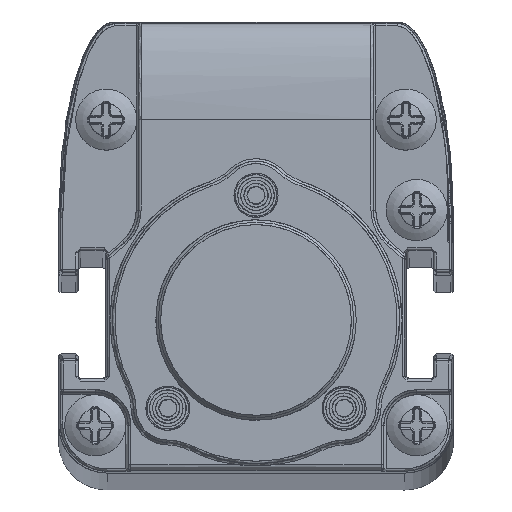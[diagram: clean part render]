
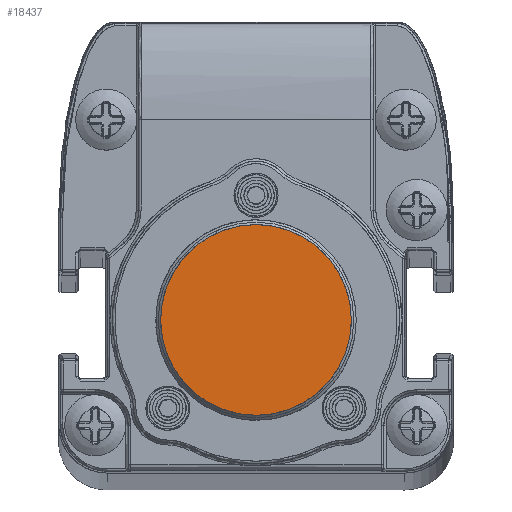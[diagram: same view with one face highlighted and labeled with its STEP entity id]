
A CAD part, top view. The second image highlights one B-rep face of the part: STEP entity #18437.
In plain terms, the highlighted planar face has unit normal (0, 0, 1).
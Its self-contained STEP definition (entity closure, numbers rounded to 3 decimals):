
#15645=B_SPLINE_CURVE_WITH_KNOTS('',3,(#62720,#62721,#62722,#62723,#62724,
#62725,#62726,#62727,#62728,#62729,#62730,#62731,#62732,#62733,#62734,#62735,
#62736,#62737,#62738,#62739,#62740,#62741,#62742,#62743,#62744,#62745,#62746,
#62747,#62748,#62749,#62750,#62751,#62752,#62753,#62754,#62755,#62756,#62757,
#62758,#62759,#62760,#62761,#62762,#62763,#62764,#62765,#62766,#62767,#62768,
#62769,#62770,#62771,#62772,#62773,#62774,#62775,#62776,#62777,#62778,#62779,
#62780,#62781,#62782,#62783,#62784,#62785,#62786,#62787,#62788,#62789,#62790,
#62791,#62792,#62793,#62794,#62795,#62796,#62797,#62798,#62799,#62800,#62801,
#62802,#62803,#62804,#62805,#62806,#62807,#62808,#62809,#62810,#62811,#62812,
#62813,#62814,#62815,#62816,#62817,#62818,#62819,#62820,#62821,#62822),
 .UNSPECIFIED.,.T.,.F.,(1,3,3,3,3,3,3,3,3,3,3,3,3,3,3,3,3,3,3,3,3,3,3,3,
3,3,3,3,3,3,3,3,3,3,3,3,1),(-0.029,0.,0.029,0.059,
0.088,0.118,0.147,0.176,
0.206,0.235,0.265,0.294,
0.324,0.353,0.382,0.412,
0.441,0.471,0.5,0.529,0.559,
0.588,0.618,0.647,0.676,
0.706,0.735,0.765,0.794,
0.824,0.853,0.882,0.912,
0.941,0.971,1.,1.029),.UNSPECIFIED.);
#18437=ADVANCED_FACE('',(#20469),#19413,.T.);
#19413=PLANE('',#44037);
#20469=FACE_OUTER_BOUND('',#21878,.T.);
#21878=EDGE_LOOP('',(#28146));
#28146=ORIENTED_EDGE('',*,*,#37290,.T.);
#32301=VERTEX_POINT('',#62823);
#37290=EDGE_CURVE('',#32301,#32301,#15645,.T.);
#44037=AXIS2_PLACEMENT_3D('',#62824,#47944,#47945);
#47944=DIRECTION('',(0.,0.,1.));
#47945=DIRECTION('',(1.,0.,0.));
#62720=CARTESIAN_POINT('',(7.8,0.,833.34));
#62721=CARTESIAN_POINT('',(7.8,0.465,833.34));
#62722=CARTESIAN_POINT('',(7.759,0.925,833.34));
#62723=CARTESIAN_POINT('',(7.679,1.376,833.34));
#62724=CARTESIAN_POINT('',(7.638,1.601,833.34));
#62725=CARTESIAN_POINT('',(7.588,1.825,833.34));
#62726=CARTESIAN_POINT('',(7.527,2.047,833.34));
#62727=CARTESIAN_POINT('',(7.466,2.269,833.34));
#62728=CARTESIAN_POINT('',(7.407,2.458,833.34));
#62729=CARTESIAN_POINT('',(7.315,2.708,833.34));
#62730=CARTESIAN_POINT('',(7.129,3.209,833.34));
#62731=CARTESIAN_POINT('',(6.898,3.683,833.34));
#62732=CARTESIAN_POINT('',(6.62,4.128,833.34));
#62733=CARTESIAN_POINT('',(6.343,4.573,833.34));
#62734=CARTESIAN_POINT('',(6.043,4.965,833.34));
#62735=CARTESIAN_POINT('',(5.651,5.376,833.34));
#62736=CARTESIAN_POINT('',(4.868,6.2,833.34));
#62737=CARTESIAN_POINT('',(3.912,6.837,833.34));
#62738=CARTESIAN_POINT('',(2.89,7.245,833.34));
#62739=CARTESIAN_POINT('',(2.378,7.449,833.34));
#62740=CARTESIAN_POINT('',(1.856,7.597,833.34));
#62741=CARTESIAN_POINT('',(1.324,7.689,833.34));
#62742=CARTESIAN_POINT('',(1.058,7.734,833.34));
#62743=CARTESIAN_POINT('',(0.79,7.766,833.34));
#62744=CARTESIAN_POINT('',(0.52,7.784,833.34));
#62745=CARTESIAN_POINT('',(0.249,7.801,833.34));
#62746=CARTESIAN_POINT('',(-0.055,7.804,833.34));
#62747=CARTESIAN_POINT('',(-0.3,7.794,833.34));
#62748=CARTESIAN_POINT('',(-0.79,7.775,833.34));
#62749=CARTESIAN_POINT('',(-1.271,7.712,833.34));
#62750=CARTESIAN_POINT('',(-1.742,7.604,833.34));
#62751=CARTESIAN_POINT('',(-2.213,7.496,833.34));
#62752=CARTESIAN_POINT('',(-2.713,7.327,833.34));
#62753=CARTESIAN_POINT('',(-3.123,7.147,833.34));
#62754=CARTESIAN_POINT('',(-3.534,6.968,833.34));
#62755=CARTESIAN_POINT('',(-3.924,6.757,833.34));
#62756=CARTESIAN_POINT('',(-4.293,6.513,833.34));
#62757=CARTESIAN_POINT('',(-4.477,6.392,833.34));
#62758=CARTESIAN_POINT('',(-4.656,6.262,833.34));
#62759=CARTESIAN_POINT('',(-4.83,6.125,833.34));
#62760=CARTESIAN_POINT('',(-5.004,5.987,833.34));
#62761=CARTESIAN_POINT('',(-5.15,5.864,833.34));
#62762=CARTESIAN_POINT('',(-5.337,5.688,833.34));
#62763=CARTESIAN_POINT('',(-5.712,5.337,833.34));
#62764=CARTESIAN_POINT('',(-6.047,4.956,833.34));
#62765=CARTESIAN_POINT('',(-6.341,4.545,833.34));
#62766=CARTESIAN_POINT('',(-6.635,4.134,833.34));
#62767=CARTESIAN_POINT('',(-6.869,3.738,833.34));
#62768=CARTESIAN_POINT('',(-7.102,3.226,833.34));
#62769=CARTESIAN_POINT('',(-7.567,2.203,833.34));
#62770=CARTESIAN_POINT('',(-7.8,1.124,833.34));
#62771=CARTESIAN_POINT('',(-7.8,0.,833.34));
#62772=CARTESIAN_POINT('',(-7.8,-0.562,833.34));
#62773=CARTESIAN_POINT('',(-7.742,-1.113,833.34));
#62774=CARTESIAN_POINT('',(-7.625,-1.651,833.34));
#62775=CARTESIAN_POINT('',(-7.509,-2.189,833.34));
#62776=CARTESIAN_POINT('',(-7.314,-2.758,833.34));
#62777=CARTESIAN_POINT('',(-7.102,-3.226,833.34));
#62778=CARTESIAN_POINT('',(-6.889,-3.694,833.34));
#62779=CARTESIAN_POINT('',(-6.636,-4.134,833.34));
#62780=CARTESIAN_POINT('',(-6.341,-4.544,833.34));
#62781=CARTESIAN_POINT('',(-6.194,-4.75,833.34));
#62782=CARTESIAN_POINT('',(-6.037,-4.947,833.34));
#62783=CARTESIAN_POINT('',(-5.87,-5.138,833.34));
#62784=CARTESIAN_POINT('',(-5.702,-5.329,833.34));
#62785=CARTESIAN_POINT('',(-5.5,-5.535,833.34));
#62786=CARTESIAN_POINT('',(-5.337,-5.688,833.34));
#62787=CARTESIAN_POINT('',(-5.01,-5.995,833.34));
#62788=CARTESIAN_POINT('',(-4.662,-6.27,833.34));
#62789=CARTESIAN_POINT('',(-4.293,-6.513,833.34));
#62790=CARTESIAN_POINT('',(-3.924,-6.756,833.34));
#62791=CARTESIAN_POINT('',(-3.573,-6.951,833.34));
#62792=CARTESIAN_POINT('',(-3.123,-7.147,833.34));
#62793=CARTESIAN_POINT('',(-2.674,-7.344,833.34));
#62794=CARTESIAN_POINT('',(-2.213,-7.496,833.34));
#62795=CARTESIAN_POINT('',(-1.743,-7.604,833.34));
#62796=CARTESIAN_POINT('',(-1.507,-7.658,833.34));
#62797=CARTESIAN_POINT('',(-1.269,-7.701,833.34));
#62798=CARTESIAN_POINT('',(-1.029,-7.732,833.34));
#62799=CARTESIAN_POINT('',(-0.789,-7.764,833.34));
#62800=CARTESIAN_POINT('',(-0.575,-7.784,833.34));
#62801=CARTESIAN_POINT('',(-0.3,-7.794,833.34));
#62802=CARTESIAN_POINT('',(0.801,-7.837,833.34));
#62803=CARTESIAN_POINT('',(1.834,-7.666,833.34));
#62804=CARTESIAN_POINT('',(2.89,-7.245,833.34));
#62805=CARTESIAN_POINT('',(3.417,-7.035,833.34));
#62806=CARTESIAN_POINT('',(3.912,-6.774,833.34));
#62807=CARTESIAN_POINT('',(4.372,-6.462,833.34));
#62808=CARTESIAN_POINT('',(4.833,-6.15,833.34));
#62809=CARTESIAN_POINT('',(5.283,-5.763,833.34));
#62810=CARTESIAN_POINT('',(5.651,-5.376,833.34));
#62811=CARTESIAN_POINT('',(6.019,-4.989,833.34));
#62812=CARTESIAN_POINT('',(6.342,-4.573,833.34));
#62813=CARTESIAN_POINT('',(6.62,-4.128,833.34));
#62814=CARTESIAN_POINT('',(6.759,-3.906,833.34));
#62815=CARTESIAN_POINT('',(6.886,-3.676,833.34));
#62816=CARTESIAN_POINT('',(7.002,-3.44,833.34));
#62817=CARTESIAN_POINT('',(7.117,-3.203,833.34));
#62818=CARTESIAN_POINT('',(7.234,-2.926,833.34));
#62819=CARTESIAN_POINT('',(7.315,-2.708,833.34));
#62820=CARTESIAN_POINT('',(7.638,-1.835,833.34));
#62821=CARTESIAN_POINT('',(7.8,-0.933,833.34));
#62822=CARTESIAN_POINT('',(7.8,0.,833.34));
#62823=CARTESIAN_POINT('',(7.8,0.,833.34));
#62824=CARTESIAN_POINT('',(-8.9,-8.81,833.34));
